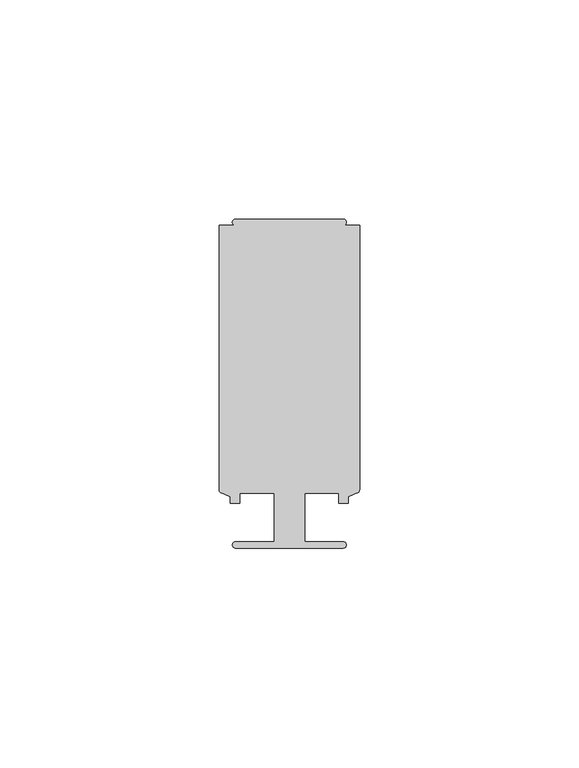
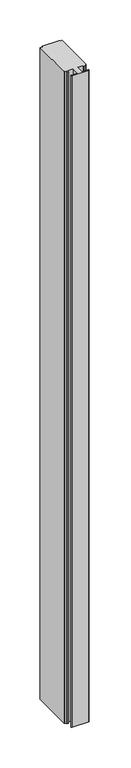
"""IFC4 building model written with IfcOpenShell, lengths in millimetres: member geometry, Прямоугольный импост : 2-AMG-1-Профиль 26Х75 Средний."""

from ifc_helpers import new_model, si_unit, point, frame, frame_2d, origin, place, context, project, spatial, polyline, circle_curve, trimmed, segment, composite_curve, outline, extrude, source, transform, mapped, element, save


def member_d21278bc(model_context):
    return source(origin(), model_context, "Body", "SweptSolid", [
        extrude(outline(composite_curve([segment(polyline([(12.2976562, -37.5), (-12.3023438, -37.5)]), True, "CONTINUOUS"), segment(trimmed(circle_curve(frame_2d((-12.3023438, -36.8)), 0.7), [point((-12.3023438, -37.5))], [point((-12.3023438, -36.1))], False, "CARTESIAN"), True, "CONTINUOUS"), segment(polyline([(-12.3023438, -36.1), (-3.5023438, -36.1), (-3.5023438, -25.0), (-11.2993767, -25.0), (-11.2993767, -27.25), (-13.4493278, -27.25), (-13.4493278, -25.836597), (-15.5219415, -24.9333875)]), True, "CONTINUOUS"), segment(trimmed(circle_curve(frame_2d((-15.2023438, -24.2)), 0.8), [point((-15.5219415, -24.9333875))], [point((-16.0023438, -24.2))], False, "CARTESIAN"), True, "CONTINUOUS"), segment(polyline([(-16.0023438, -24.2), (-16.0023438, 36.1), (-12.3004766, 36.1)]), True, "CONTINUOUS"), segment(trimmed(circle_curve(frame_2d((-12.3004766, 36.8)), 0.7), [point((-12.3004766, 36.1))], [point((-12.3004766, 37.5))], False, "CARTESIAN"), True, "CONTINUOUS"), segment(polyline([(-12.3004766, 37.5), (12.295789, 37.5)]), True, "CONTINUOUS"), segment(trimmed(circle_curve(frame_2d((12.295789, 36.8)), 0.7), [point((12.295789, 37.5))], [point((12.295789, 36.1))], False, "CARTESIAN"), True, "CONTINUOUS"), segment(polyline([(12.295789, 36.1), (15.9976562, 36.1), (15.9976562, -24.2)]), True, "CONTINUOUS"), segment(trimmed(circle_curve(frame_2d((15.1976562, -24.2)), 0.8), [point((15.9976562, -24.2))], [point((15.5172539, -24.9333875))], False, "CARTESIAN"), True, "CONTINUOUS"), segment(polyline([(15.5172539, -24.9333875), (13.4446403, -25.836597), (13.4446403, -27.25), (11.2193767, -27.25), (11.2193767, -25.0), (3.4976562, -25.0), (3.4976562, -36.1), (12.2976562, -36.1)]), True, "CONTINUOUS"), segment(trimmed(circle_curve(frame_2d((12.2976562, -36.8)), 0.7), [point((12.2976562, -36.1))], [point((12.2976562, -37.5))], False, "CARTESIAN"), True, "CONTINUOUS")], self_intersect=False)), frame((0.0, 0.0, -1000.8479162), z_axis=(0.0, 0.0, 1.0), x_axis=(1.0, 0.0, 0.0)), (0.0, 0.0, 1.0), 1000.8479162),
    ])


if __name__ == "__main__":
    model = new_model("IFC4")
    model_context = context("Model", 3, world=origin())
    ifc_project = project(units=[si_unit("LENGTHUNIT", "METRE", prefix="MILLI")], contexts=[model_context])
    site = spatial("IfcSite", under=ifc_project)
    building = spatial("IfcBuilding", under=site)
    placement = place(None, origin())
    member_shape = member_d21278bc(model_context)
    element("IfcMember", 1, ObjectType="Прямоугольный импост : 2-AMG-1-Профиль 26Х75 Средний", at=placement, inside=building, context=model_context, shape_type="MappedRepresentation", body=[
        mapped(member_shape, transform((0.0, 0.0, 0.0), x_axis=(1.0, 0.0, 0.0), y_axis=(0.0, 1.0, 0.0), z_axis=(0.0, 0.0, 1.0))),
    ])
    save(model, "model.ifc")
